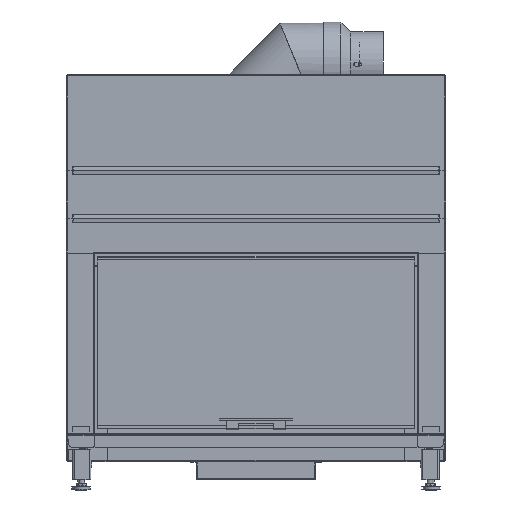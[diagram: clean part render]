
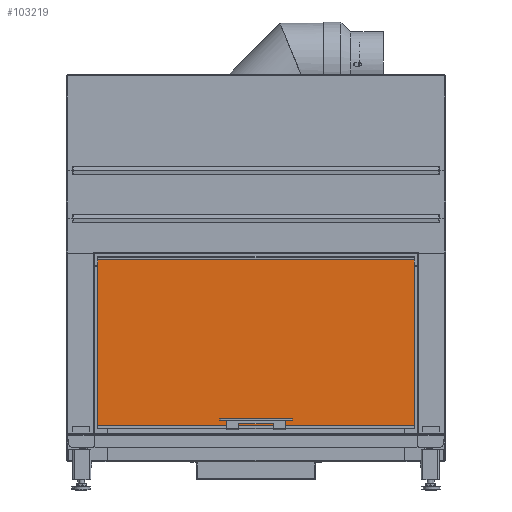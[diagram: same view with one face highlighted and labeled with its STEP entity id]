
A CAD part, front view. The second image highlights one B-rep face of the part: STEP entity #103219.
In plain terms, the highlighted planar face has unit normal (0, -1, 0) as drawn and (0, 1, 0) by its records, which use the part's own axes.
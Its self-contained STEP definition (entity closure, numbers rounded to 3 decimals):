
#8930=FACE_OUTER_BOUND('',#14577,.T.);
#14577=EDGE_LOOP('',(#89701,#89702,#89703,#89704));
#28085=LINE('',#176481,#37625);
#28086=LINE('',#176483,#37626);
#28087=LINE('',#176485,#37627);
#28088=LINE('',#176486,#37628);
#37625=VECTOR('',#140718,1.);
#37626=VECTOR('',#140719,1.);
#37627=VECTOR('',#140720,1.);
#37628=VECTOR('',#140721,1.);
#46610=VERTEX_POINT('',#176479);
#46611=VERTEX_POINT('',#176480);
#46612=VERTEX_POINT('',#176482);
#46613=VERTEX_POINT('',#176484);
#60983=EDGE_CURVE('',#46610,#46611,#28085,.T.);
#60984=EDGE_CURVE('',#46612,#46610,#28086,.T.);
#60985=EDGE_CURVE('',#46613,#46612,#28087,.T.);
#60986=EDGE_CURVE('',#46611,#46613,#28088,.T.);
#89701=ORIENTED_EDGE('',*,*,#60983,.F.);
#89702=ORIENTED_EDGE('',*,*,#60984,.F.);
#89703=ORIENTED_EDGE('',*,*,#60985,.F.);
#89704=ORIENTED_EDGE('',*,*,#60986,.F.);
#92689=PLANE('',#112764);
#103219=ADVANCED_FACE('',(#8930),#92689,.F.);
#112764=AXIS2_PLACEMENT_3D('',#176478,#140716,#140717);
#140716=DIRECTION('center_axis',(0.,-1.,0.));
#140717=DIRECTION('ref_axis',(0.,0.,
1.));
#140718=DIRECTION('',(0.,0.,-1.));
#140719=DIRECTION('',(-1.,0.,0.));
#140720=DIRECTION('',(0.,0.,1.));
#140721=DIRECTION('',(1.,0.,0.));
#176478=CARTESIAN_POINT('Origin',(0.,3.4,
36.05));
#176479=CARTESIAN_POINT('',(-47.85,3.4,61.95));
#176480=CARTESIAN_POINT('',(-47.85,3.4,10.15));
#176481=CARTESIAN_POINT('',(-47.85,3.4,10.15));
#176482=CARTESIAN_POINT('',(47.85,3.4,61.95));
#176483=CARTESIAN_POINT('',(-47.85,3.4,61.95));
#176484=CARTESIAN_POINT('',(47.85,3.4,10.15));
#176485=CARTESIAN_POINT('',(47.85,3.4,61.95));
#176486=CARTESIAN_POINT('',(47.85,3.4,10.15));
